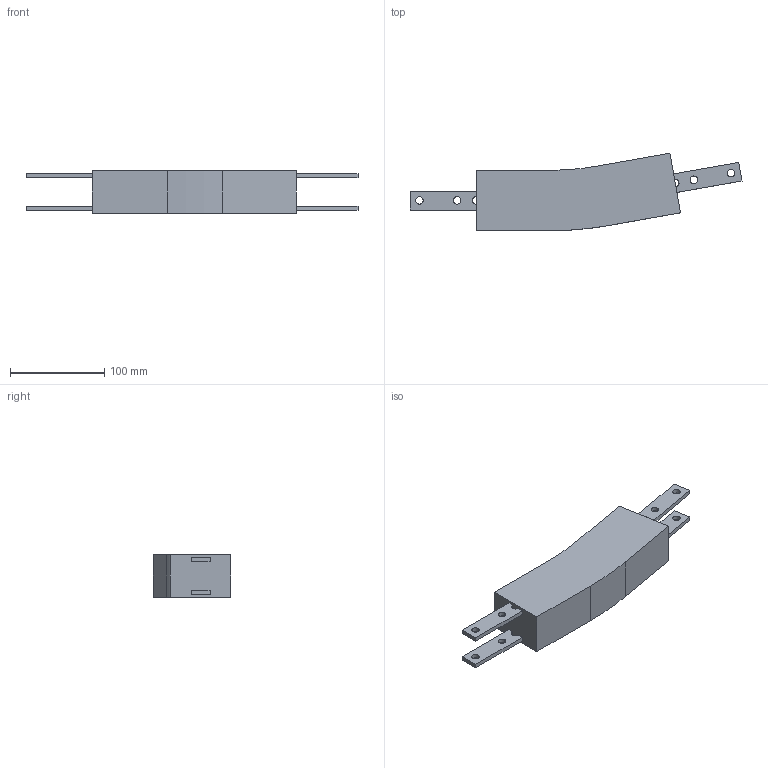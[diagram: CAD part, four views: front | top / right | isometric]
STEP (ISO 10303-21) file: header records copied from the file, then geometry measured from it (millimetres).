
FILE_DESCRIPTION (( 'STEP AP203' ), '1' );
FILE_NAME ('FKVB10R300.STEP', '2010-02-23T10:09:43', ( '.' ), ( '' ), 'SwSTEP 2.0', 'SolidWorks 2009', '' );
FILE_SCHEMA (( 'CONFIG_CONTROL_DESIGN' ));
Length unit declared in the file: millimetre
Products named in the file (1): FKVB10R300
Bounding box: 351.58 x 81.96 x 45 mm (x, y, z)
Volume: 634534.5 mm3; surface area: 66044.1 mm2
Topology: 1 solids, 1 shells, 54 faces, 156 edges, 104 vertices
Faces by surface type: plane 28, cylinder 26
Entity records: 1917 total; most frequent: DIRECTION 318, CARTESIAN_POINT 315, ORIENTED_EDGE 312, EDGE_CURVE 156, AXIS2_PLACEMENT_3D 107, VERTEX_POINT 104, VECTOR 104, LINE 104
